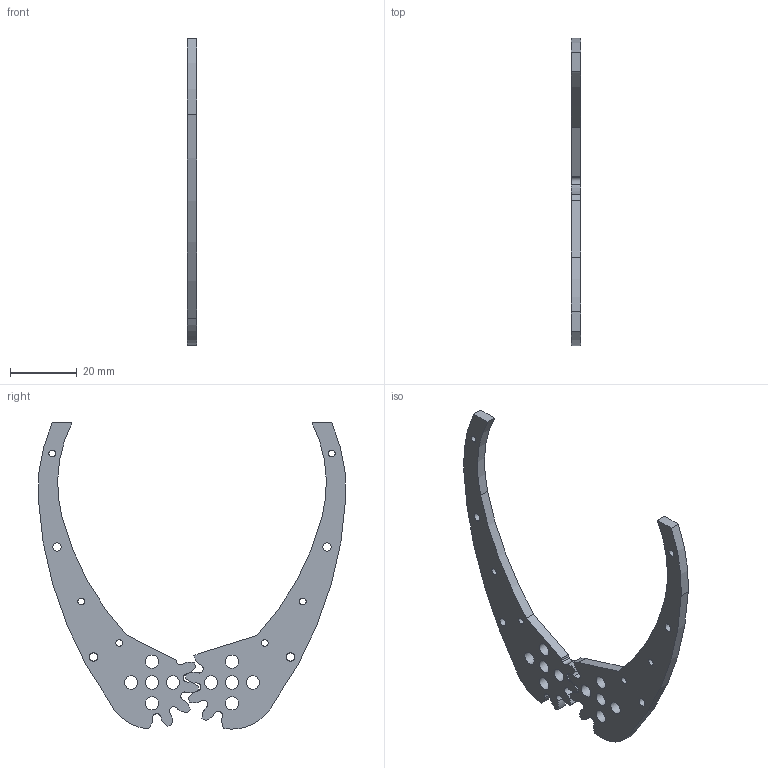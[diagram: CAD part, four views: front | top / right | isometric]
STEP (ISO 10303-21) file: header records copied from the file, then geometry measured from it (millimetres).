
FILE_DESCRIPTION( ('This file contains a STEP AP42 implementation' ,'as created by ZW3D STEP Interface translator.') ,'2;1' );
FILE_NAME( 'GearedFinger.stp' ,'24 9 3.132932', (''), ('ZWCAD Software Co.'), 'Version 1.0', 'ZW3D to STEP translator', '' );
FILE_SCHEMA(('AUTOMOTIVE_DESIGN { 1 0 10303 214 1 1 1 1 }'));
Length unit declared in the file: millimetre
Products named in the file (2): 0; GearedFinger
Bounding box: 3 x 92.34 x 91.96 mm (x, y, z)
Volume: 6699.8 mm3; surface area: 6559.2 mm2
Topology: 2 solids, 2 shells, 90 faces, 258 edges, 172 vertices
Faces by surface type: cylinder 46, bspline 35, plane 9
Full cylindrical faces by diameter (mm): 2 x5, 2.018 x1, 2.5 x4, 4 x10
Entity records: 11142 total; most frequent: CARTESIAN_POINT 8736, ORIENTED_EDGE 516, DIRECTION 392, EDGE_CURVE 258, VERTEX_POINT 172, AXIS2_PLACEMENT_3D 148, EDGE_LOOP 130, VECTOR 96
